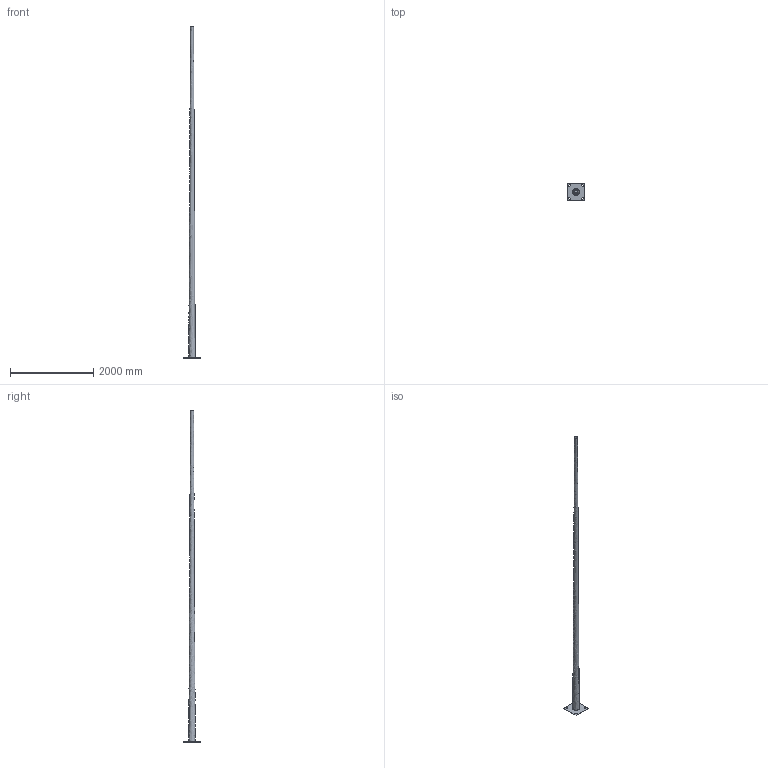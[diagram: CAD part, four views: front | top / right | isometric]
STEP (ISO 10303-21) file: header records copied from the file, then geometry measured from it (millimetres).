
FILE_DESCRIPTION(('FreeCAD Model'),'2;1');
FILE_NAME('Open CASCADE Shape Model','2024-12-18T14:46:16',(''),(''), 'Open CASCADE STEP processor 7.8','FreeCAD','Unknown');
FILE_SCHEMA(('AUTOMOTIVE_DESIGN { 1 0 10303 214 1 1 1 1 }'));
Length unit declared in the file: millimetre
Products named in the file (1): Body
Bounding box: 412 x 412 x 8000 mm (x, y, z)
Volume: 9408873.1 mm3; surface area: 6066557.8 mm2
Topology: 1 solids, 1 shells, 51 faces, 148 edges, 101 vertices
Faces by surface type: plane 32, cylinder 16, bspline 2, offset 1
Entity records: 3077 total; most frequent: CARTESIAN_POINT 1794, ORIENTED_EDGE 296, DIRECTION 198, EDGE_CURVE 148, VERTEX_POINT 101, LINE 68, VECTOR 68, AXIS2_PLACEMENT_3D 65
